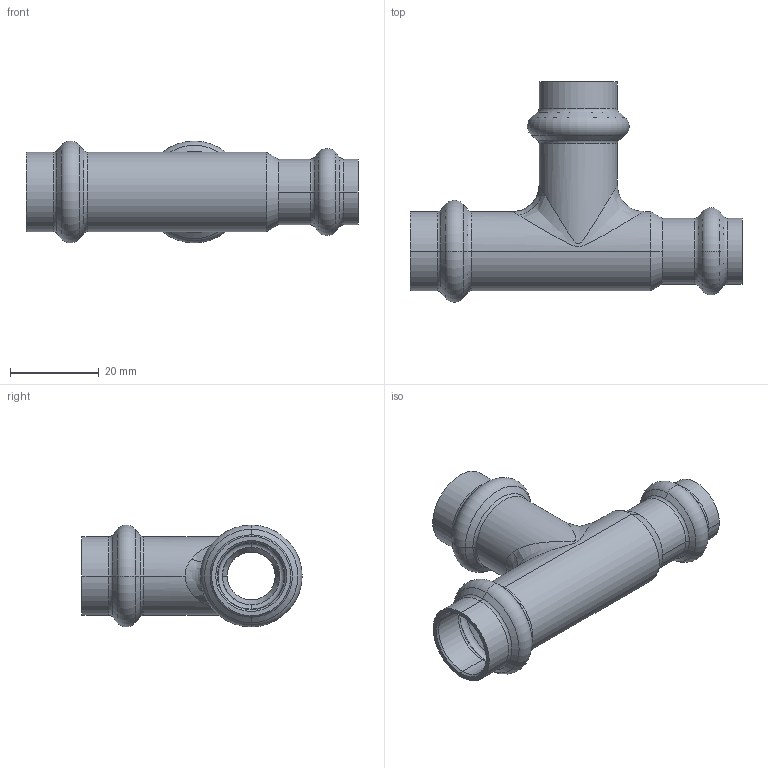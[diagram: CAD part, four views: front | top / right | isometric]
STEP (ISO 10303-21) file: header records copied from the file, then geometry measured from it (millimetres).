
FILE_DESCRIPTION (( 'STEP AP203' ), '1' );
FILE_NAME ('SP5130 Ø15-15-12.STEP', '2017-04-25T14:50:08', ( '' ), ( '' ), 'SwSTEP 2.0', 'SolidWorks 2016', '' );
FILE_SCHEMA (( 'CONFIG_CONTROL_DESIGN' ));
Length unit declared in the file: millimetre
Products named in the file (1): SP5130 Ø15-15-12
Bounding box: 75 x 49.75 x 23 mm (x, y, z)
Volume: 9410.5 mm3; surface area: 11400.1 mm2
Topology: 1 solids, 1 shells, 116 faces, 254 edges, 142 vertices
Faces by surface type: torus 40, cone 36, cylinder 31, plane 5, bspline 4
Entity records: 4583 total; most frequent: CARTESIAN_POINT 1885, DIRECTION 636, ORIENTED_EDGE 508, AXIS2_PLACEMENT_3D 285, EDGE_CURVE 254, CIRCLE 172, VERTEX_POINT 142, EDGE_LOOP 122
